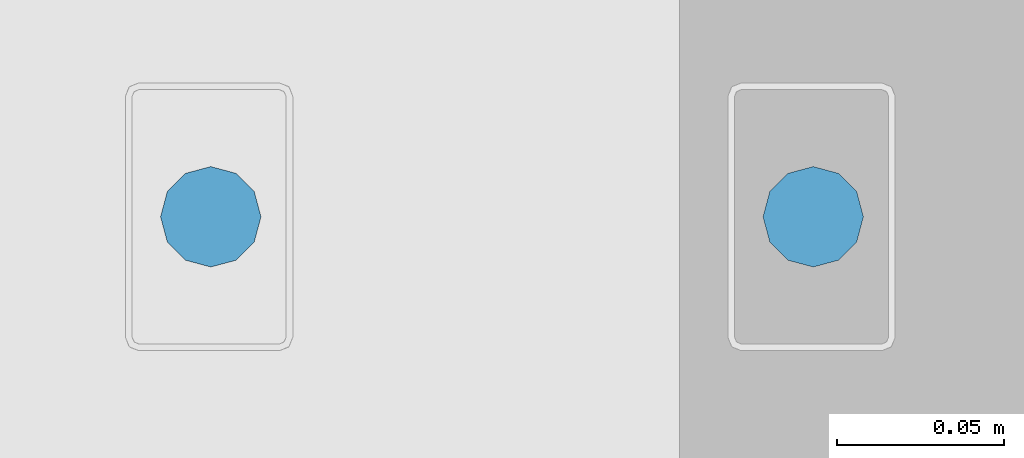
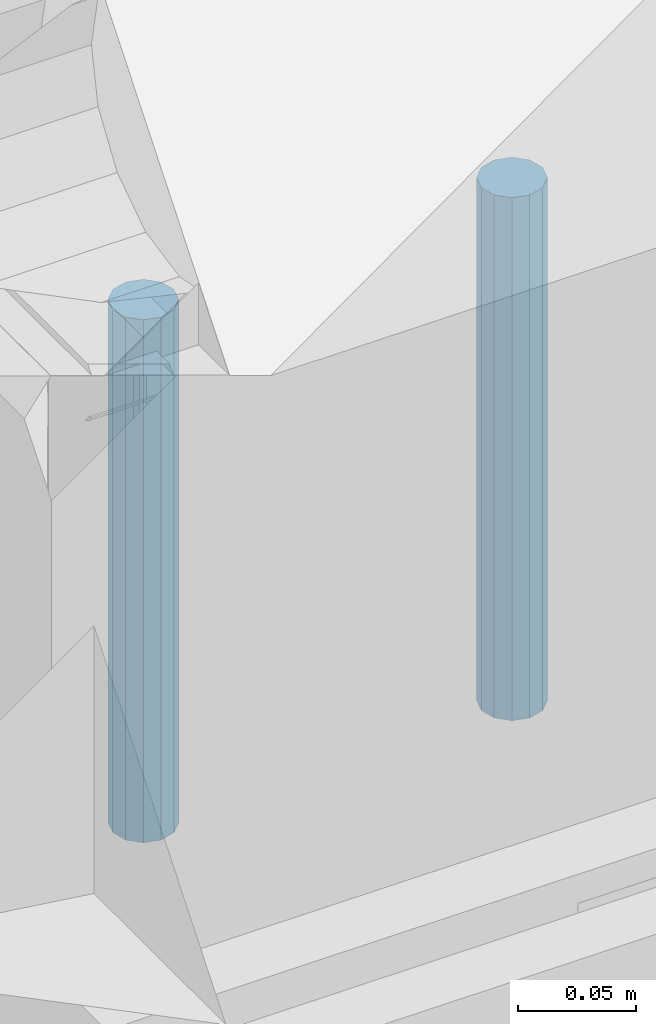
# One storey, part 208 of 230: 2 beams.
"""IFC4X3_ADD2 building model written with IfcOpenShell, lengths in millimetres."""

from ifc_helpers import new_model, si_unit, direction, origin_with_axes, place, context, subcontext, project, spatial, polygons, element, save


model = new_model("IFC4X3_ADD2")

# Units and contexts
model_context = context("Model", 3, precision=1e-05, world=origin_with_axes(), true_north=direction((0.0, 1.0)))
body_context = subcontext(model_context, "Body", "Model", "MODEL_VIEW")
ifc_project = project(units=[si_unit("LENGTHUNIT", "METRE", prefix="MILLI"), si_unit("AREAUNIT", "SQUARE_METRE"), si_unit("VOLUMEUNIT", "CUBIC_METRE"), si_unit("PLANEANGLEUNIT", "RADIAN"), si_unit("TIMEUNIT", "SECOND"), si_unit("MASSUNIT", "GRAM")], contexts=[model_context])

# Site, building, storey
site_placement = place(None, origin_with_axes())
site = spatial("IfcSite", under=ifc_project, at=site_placement, Name="Site", CompositionType="ELEMENT")
building_placement = place(site_placement, origin_with_axes())
building = spatial("IfcBuilding", under=site, at=building_placement, Name="IFC Building Story")
storey_placement = place(building_placement, origin_with_axes())
storey = spatial("IfcBuildingStorey", under=building, at=storey_placement, Name="ETAGE 00 (0)", Elevation=0.0)

# Beams
beam_1_placement = place(storey_placement, origin_with_axes())
element("IfcBeam", 1, at=beam_1_placement, inside=storey, Name="SD11", ObjectType="D30", context=body_context, shape_type="Tessellation", body=[
    polygons([(48206.1886362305, 21939.9996109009, 3960.0), (48206.1886362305, 21939.9996109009, 3690.0), (48208.19825517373, 21932.49961090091, 3690.0), (48208.19825517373, 21932.49961090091, 3960.0), (48213.6886362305, 21927.00922984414, 3690.0), (48213.6886362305, 21927.00922984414, 3960.0), (48221.18863623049, 21924.9996109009, 3690.0), (48221.18863623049, 21924.9996109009, 3960.0), (48228.68863623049, 21927.00922984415, 3690.0), (48228.68863623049, 21927.00922984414, 3960.0), (48234.17901728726, 21932.4996109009, 3690.0), (48234.17901728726, 21932.4996109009, 3960.0), (48236.1886362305, 21939.9996109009, 3690.0), (48236.1886362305, 21939.9996109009, 3960.0), (48234.17901728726, 21947.4996109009, 3690.0), (48234.17901728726, 21947.4996109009, 3960.0), (48228.68863623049, 21952.98999195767, 3690.0), (48228.68863623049, 21952.98999195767, 3960.0), (48221.18863623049, 21954.9996109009, 3690.0), (48221.18863623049, 21954.9996109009, 3960.0), (48213.6886362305, 21952.98999195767, 3690.0), (48213.6886362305, 21952.98999195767, 3960.0), (48208.19825517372, 21947.4996109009, 3690.0), (48208.19825517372, 21947.4996109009, 3960.0)], [[[1, 2, 3, 4]], [[4, 3, 5, 6]], [[6, 5, 7, 8]], [[8, 7, 9, 10]], [[10, 9, 11, 12]], [[12, 11, 13, 14]], [[14, 13, 15, 16]], [[16, 15, 17, 18]], [[18, 17, 19, 20]], [[20, 19, 21, 22]], [[22, 21, 23, 24]], [[24, 23, 2, 1]], [[4, 6, 8]], [[4, 8, 10]], [[4, 10, 12]], [[4, 12, 14]], [[4, 14, 16]], [[4, 16, 18]], [[4, 18, 20]], [[4, 20, 22]], [[4, 22, 24]], [[4, 24, 1]], [[2, 23, 21]], [[2, 21, 19]], [[2, 19, 17]], [[2, 17, 15]], [[2, 15, 13]], [[2, 13, 11]], [[2, 11, 9]], [[2, 9, 7]], [[2, 7, 5]], [[2, 5, 3]]]),
])
beam_2_placement = place(storey_placement, origin_with_axes())
element("IfcBeam", 2, at=beam_2_placement, inside=storey, Name="SD11", ObjectType="D30", context=body_context, shape_type="Tessellation", body=[
    polygons([(48386.1886362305, 21939.9996109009, 3960.0), (48386.1886362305, 21939.9996109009, 3690.0), (48388.19825517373, 21932.49961090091, 3690.0), (48388.19825517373, 21932.49961090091, 3960.0), (48393.6886362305, 21927.00922984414, 3690.0), (48393.6886362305, 21927.00922984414, 3960.0), (48401.18863623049, 21924.9996109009, 3690.0), (48401.18863623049, 21924.9996109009, 3960.0), (48408.68863623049, 21927.00922984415, 3690.0), (48408.68863623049, 21927.00922984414, 3960.0), (48414.17901728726, 21932.4996109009, 3690.0), (48414.17901728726, 21932.4996109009, 3960.0), (48416.1886362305, 21939.9996109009, 3690.0), (48416.1886362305, 21939.9996109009, 3960.0), (48414.17901728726, 21947.4996109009, 3690.0), (48414.17901728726, 21947.4996109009, 3960.0), (48408.68863623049, 21952.98999195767, 3690.0), (48408.68863623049, 21952.98999195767, 3960.0), (48401.18863623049, 21954.9996109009, 3690.0), (48401.18863623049, 21954.9996109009, 3960.0), (48393.6886362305, 21952.98999195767, 3690.0), (48393.6886362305, 21952.98999195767, 3960.0), (48388.19825517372, 21947.4996109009, 3690.0), (48388.19825517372, 21947.4996109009, 3960.0)], [[[1, 2, 3, 4]], [[4, 3, 5, 6]], [[6, 5, 7, 8]], [[8, 7, 9, 10]], [[10, 9, 11, 12]], [[12, 11, 13, 14]], [[14, 13, 15, 16]], [[16, 15, 17, 18]], [[18, 17, 19, 20]], [[20, 19, 21, 22]], [[22, 21, 23, 24]], [[24, 23, 2, 1]], [[4, 6, 8]], [[4, 8, 10]], [[4, 10, 12]], [[4, 12, 14]], [[4, 14, 16]], [[4, 16, 18]], [[4, 18, 20]], [[4, 20, 22]], [[4, 22, 24]], [[4, 24, 1]], [[2, 23, 21]], [[2, 21, 19]], [[2, 19, 17]], [[2, 17, 15]], [[2, 15, 13]], [[2, 13, 11]], [[2, 11, 9]], [[2, 9, 7]], [[2, 7, 5]], [[2, 5, 3]]]),
])

save(model, "model.ifc")
